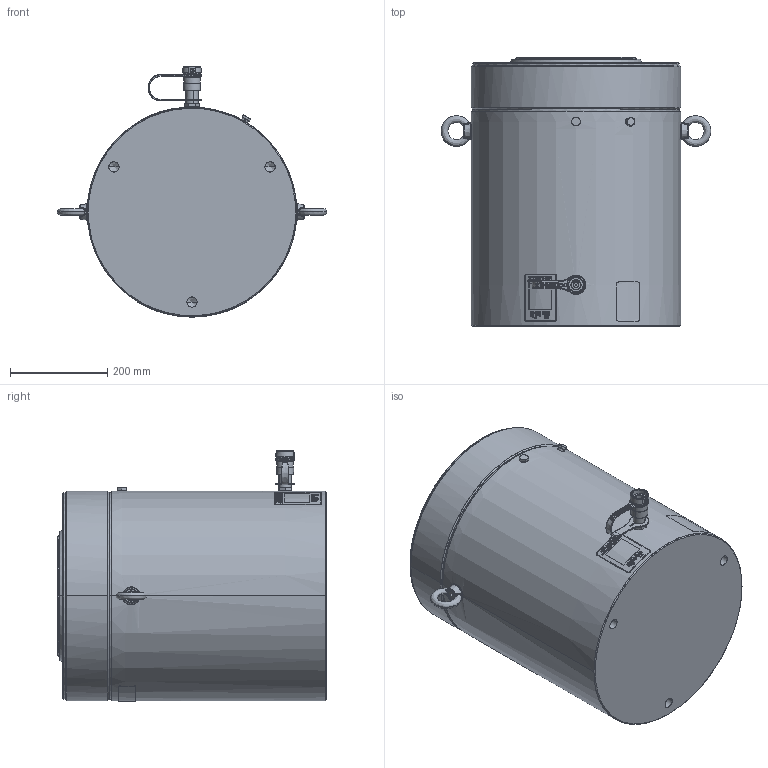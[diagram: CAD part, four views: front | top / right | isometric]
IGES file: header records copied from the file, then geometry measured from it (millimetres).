
Start section:  PTC IGES file: hcg60010.igs
Global section: file name: hcg60010.igs; native system: Creo Parametric by PTC Inc.; preprocessor: 2015290; author: Akhilesh.Subrahmanya; organization: Unknown; date: 20170720.114801; units: millimetre
Bounding box: 553.86 x 552 x 513.94 mm (x, y, z)
Surface area: 1480317.1 mm2 (no closed solid volume)
Topology: 0 solids, 0 shells, 622 faces, 5736 edges, 5723 vertices
Faces by surface type: revolution 382, bspline 238, extrusion 2
